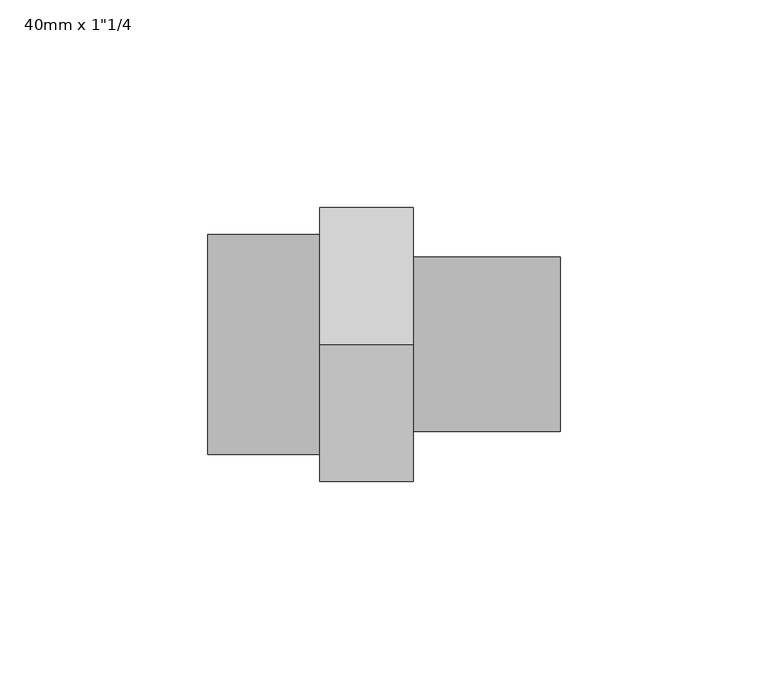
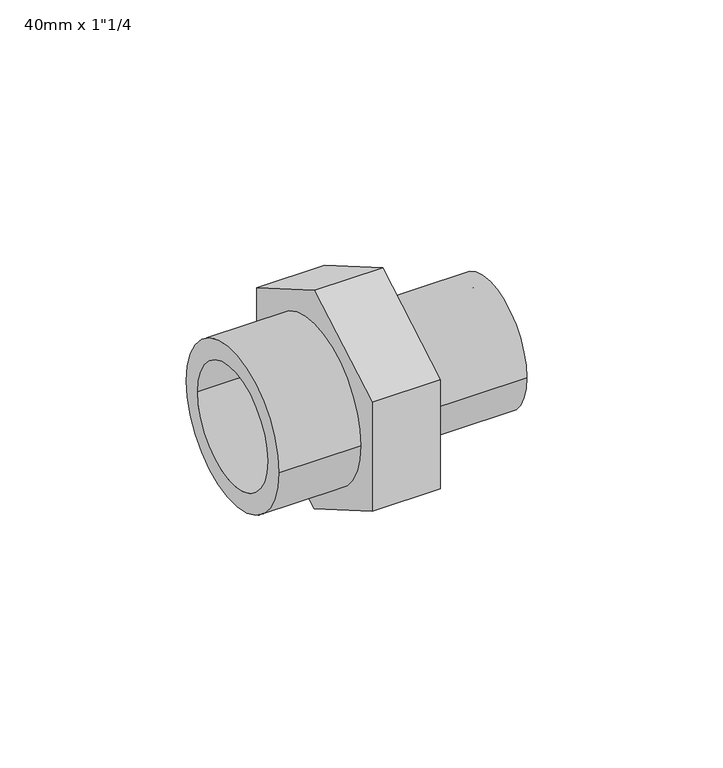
"""IFC4 building model written with IfcOpenShell, lengths in millimetres: pipe fitting geometry."""

import ifcopenshell
import ifcopenshell.guid

model = None  # the IFC model being written
_history = None  # IfcOwnerHistory: only IFC2X3 demands one
_inside = {}  # id of a spatial element -> (the spatial element, [elements in it])
_under = {}  # id of a project, library or spatial element -> (it, [spatial elements below it])
_declared = {}  # id of a project -> (the project, [libraries it declares])
_typed = {}  # id of a type object -> (the type object, [elements of that type])
_made_of = {}  # id of a material, layer set ... -> (it, [elements and type objects made of it])


def new_model(schema):
    """Start an empty IFC model of exactly this schema.

    Asked for "IFC4X3", IfcOpenShell would pick the latest addendum, in which some entities
    have other attributes; the version numbers below select the first issue.
    IFC2X3 requires an IfcOwnerHistory on every rooted entity: one is made here for all.
    """
    global model, _history
    if schema == "IFC4X3":
        model = ifcopenshell.file(schema_version=(4, 3, 0, 0))
    else:
        model = ifcopenshell.file(schema=schema)
    _inside.clear()
    _under.clear()
    _declared.clear()
    _typed.clear()
    _made_of.clear()
    _history = None
    if model.schema == "IFC2X3":
        org = make("IfcOrganization", Name="unknown")
        user = make(
            "IfcPersonAndOrganization",
            ThePerson=make("IfcPerson", FamilyName="unknown"),
            TheOrganization=org,
        )
        app = make(
            "IfcApplication",
            ApplicationDeveloper=org,
            Version="unknown",
            ApplicationFullName="unknown",
            ApplicationIdentifier="unknown",
        )
        _history = make(
            "IfcOwnerHistory",
            OwningUser=user,
            OwningApplication=app,
            ChangeAction="ADDED",
            CreationDate=0,
        )
    return model


def make(cls, **values):
    """One entity of the class cls with the attributes given. An attribute that is None is left unset."""
    return model.create_entity(
        cls, **{name: value for name, value in values.items() if value is not None}
    )


def rooted(cls, **values):
    """An entity with a GlobalId (a new one), such as an element, a storey or a relation."""
    return make(cls, GlobalId=ifcopenshell.guid.new(), OwnerHistory=_history, **values)


def si_unit(unit_type, name, prefix=None):
    """IfcSIUnit, for example si_unit("LENGTHUNIT", "METRE", prefix="MILLI")."""
    return make("IfcSIUnit", UnitType=unit_type, Prefix=prefix, Name=name)


def assignment(units):
    """IfcUnitAssignment: the units of a project."""
    return None if units is None else make("IfcUnitAssignment", Units=units)


def point(xyz):
    """IfcCartesianPoint."""
    return None if xyz is None else make("IfcCartesianPoint", Coordinates=xyz)


def direction(xyz):
    """IfcDirection."""
    return None if xyz is None else make("IfcDirection", DirectionRatios=xyz)


def frame(location, z_axis=None, x_axis=None):
    """IfcAxis2Placement3D, a coordinate frame: its origin and axes. An axis left out is left unset."""
    return make(
        "IfcAxis2Placement3D",
        Location=point(location),
        Axis=direction(z_axis),
        RefDirection=direction(x_axis),
    )


def frame_2d(location, x_axis=None):
    """IfcAxis2Placement2D, a coordinate frame in the plane: its origin and x axis."""
    return make(
        "IfcAxis2Placement2D", Location=point(location), RefDirection=direction(x_axis)
    )


def origin():
    """The frame at (0, 0, 0) with its axes left unset."""
    return frame((0.0, 0.0, 0.0))


def origin_2d():
    """The frame at (0, 0) in the plane with its x axis left unset."""
    return frame_2d((0.0, 0.0))


def place(relative_to, where):
    """IfcLocalPlacement: puts the frame where relative to a parent placement (None: the world)."""
    return make(
        "IfcLocalPlacement", PlacementRelTo=relative_to, RelativePlacement=where
    )


def context(
    kind, dimensions, precision=None, world=None, true_north=None, identifier=None
):
    """IfcGeometricRepresentationContext, for example the 3D "Model" context."""
    return make(
        "IfcGeometricRepresentationContext",
        ContextIdentifier=identifier,
        ContextType=kind,
        CoordinateSpaceDimension=dimensions,
        Precision=precision,
        WorldCoordinateSystem=world,
        TrueNorth=true_north,
    )


def project(units=None, contexts=None):
    """IfcProject with its units and contexts."""
    return rooted(
        "IfcProject",
        Name="project",
        RepresentationContexts=contexts,
        UnitsInContext=assignment(units),
    )


def spatial(cls, under=None, at=None, **own):
    """A site, building, storey or space (cls), placed at a placement, below another one or the project."""
    s = rooted(cls, ObjectPlacement=at, **own)
    if under is not None:
        _under.setdefault(under.id(), (under, []))[1].append(s)
    return s


def polyline(points):
    """IfcPolyline through the points."""
    return make("IfcPolyline", Points=[point(p) for p in points])


def circle_curve(where, radius):
    """IfcCircle in the frame where."""
    return make("IfcCircle", Position=where, Radius=radius)


def trimmed(basis, trim1, trim2, sense, master):
    """IfcTrimmedCurve: the piece of a basis curve between two trims."""
    return make(
        "IfcTrimmedCurve",
        BasisCurve=basis,
        Trim1=trim1,
        Trim2=trim2,
        SenseAgreement=sense,
        MasterRepresentation=master,
    )


def segment(curve, same_sense, transition):
    """IfcCompositeCurveSegment."""
    return make(
        "IfcCompositeCurveSegment",
        Transition=transition,
        SameSense=same_sense,
        ParentCurve=curve,
    )


def composite_curve(segments, self_intersect=None):
    """IfcCompositeCurve: segments joined end to end."""
    return make("IfcCompositeCurve", Segments=segments, SelfIntersect=self_intersect)


def outline(outer, holes=None, kind="AREA"):
    """IfcArbitraryClosedProfileDef: a profile drawn as a closed curve; with holes, ...WithVoids."""
    if holes is None:
        return make("IfcArbitraryClosedProfileDef", ProfileType=kind, OuterCurve=outer)
    return make(
        "IfcArbitraryProfileDefWithVoids",
        ProfileType=kind,
        OuterCurve=outer,
        InnerCurves=holes,
    )


def extrude(swept, where, along, depth):
    """IfcExtrudedAreaSolid: the profile swept, set in the frame where, extruded along a direction by depth."""
    return make(
        "IfcExtrudedAreaSolid",
        SweptArea=swept,
        Position=where,
        ExtrudedDirection=direction(along),
        Depth=depth,
    )


def shape(context_of_items, identifier, shape_type, items):
    """IfcShapeRepresentation: the items that make up one representation, for example the "Body"."""
    return make(
        "IfcShapeRepresentation",
        ContextOfItems=context_of_items,
        RepresentationIdentifier=identifier,
        RepresentationType=shape_type,
        Items=items,
    )


def source(mapping_origin, context_of_items, identifier, shape_type, items):
    """IfcRepresentationMap: a shape defined once, which mapped items show again and again."""
    return make(
        "IfcRepresentationMap",
        MappingOrigin=mapping_origin,
        MappedRepresentation=shape(context_of_items, identifier, shape_type, items),
    )


def transform(
    local_origin,
    x_axis=None,
    y_axis=None,
    z_axis=None,
    scale=None,
    scale2=None,
    scale3=None,
    uniform=True,
):
    """IfcCartesianTransformationOperator3D, or its non-uniform kind. x_axis, y_axis, z_axis: its Axis1, 2, 3."""
    if uniform:
        return make(
            "IfcCartesianTransformationOperator3D",
            Axis1=direction(x_axis),
            Axis2=direction(y_axis),
            LocalOrigin=point(local_origin),
            Scale=scale,
            Axis3=direction(z_axis),
        )
    return make(
        "IfcCartesianTransformationOperator3DnonUniform",
        Axis1=direction(x_axis),
        Axis2=direction(y_axis),
        LocalOrigin=point(local_origin),
        Scale=scale,
        Axis3=direction(z_axis),
        Scale2=scale2,
        Scale3=scale3,
    )


def mapped(mapping_source, mapping_target):
    """IfcMappedItem: shows the shape of a source again, moved by a transform."""
    return make(
        "IfcMappedItem", MappingSource=mapping_source, MappingTarget=mapping_target
    )


def made_of(thing, what):
    """Note that an element or type object is made of a material, layer set ...; save() writes the relation."""
    if what is not None:
        _made_of.setdefault(what.id(), (what, []))[1].append(thing)
    return thing


def element(
    cls,
    number,
    at=None,
    inside=None,
    cuts=None,
    type_object=None,
    material=None,
    context=None,
    identifier="Body",
    shape_type=None,
    held_by="IfcProductDefinitionShape",
    body=None,
    shapes=None,
    **own,
):
    """One element of the class cls, such as IfcWall. Its Tag is "e" and its number.

    at: its placement. inside: the storey or other place that contains it. cuts: it is an
    opening in that element (IfcRelVoidsElement). A single representation is given by context,
    identifier, shape_type and body (its items); several are given by shapes. held_by: the class
    of the entity that holds the representations. save() writes the other relations.
    """
    e = rooted(cls, Tag="e%d" % number, ObjectPlacement=at, **own)
    if body is not None:
        shapes = [shape(context, identifier, shape_type, body)]
    if shapes is not None:
        e.Representation = make(held_by, Representations=shapes)
    if inside is not None:
        _inside.setdefault(inside.id(), (inside, []))[1].append(e)
    if cuts is not None:
        rooted(
            "IfcRelVoidsElement", RelatingBuildingElement=cuts, RelatedOpeningElement=e
        )
    if type_object is not None:
        _typed.setdefault(type_object.id(), (type_object, []))[1].append(e)
    return made_of(e, material)


def aggregate(whole, parts):
    """IfcRelAggregates: a whole, such as a stair, and the parts it consists of."""
    return rooted("IfcRelAggregates", RelatingObject=whole, RelatedObjects=parts)


def save(model, path):
    """Write the relations noted so far, then the file.

    IfcRelAggregates (storeys below a building ...), IfcRelContainedInSpatialStructure (elements
    in a storey), IfcRelDefinesByType, IfcRelAssociatesMaterial and IfcRelDeclares: one each for
    every whole, place, type object, material and project.
    """
    for whole, parts in _under.values():
        aggregate(whole, parts)
    for where, things in _inside.values():
        rooted(
            "IfcRelContainedInSpatialStructure",
            RelatedElements=things,
            RelatingStructure=where,
        )
    for kind, things in _typed.values():
        rooted("IfcRelDefinesByType", RelatedObjects=things, RelatingType=kind)
    for what, things in _made_of.values():
        rooted("IfcRelAssociatesMaterial", RelatedObjects=things, RelatingMaterial=what)
    for by, libraries in _declared.values():
        rooted("IfcRelDeclares", RelatingContext=by, RelatedDefinitions=libraries)
    model.write(path)


def plane_surface(at):
    """IfcPlane: the flat surface through the origin of the frame at, square to its z axis."""
    return make("IfcPlane", Position=at)


def cylinder_surface(at, radius):
    """IfcCylindricalSurface: all points at the distance radius from the z axis of the frame at."""
    return make("IfcCylindricalSurface", Position=at, Radius=radius)


def revolved_surface(curve, axis_point, axis_direction):
    """IfcSurfaceOfRevolution: the curve turned about the line through axis_point along axis_direction."""
    return make(
        "IfcSurfaceOfRevolution",
        SweptCurve=make("IfcArbitraryOpenProfileDef", ProfileType="CURVE", Curve=curve),
        AxisPosition=make("IfcAxis1Placement", Location=point(axis_point), Axis=direction(axis_direction)),
    )


def advanced_brep(points, edges, surfaces, faces):
    """IfcAdvancedBrep: a solid bounded by faces that lie on surfaces and meet in shared edges.

    An edge is (start, end): straight between two places in points (the first is 0);
    or (start, end, curve); or (start, end, curve, False) where it runs against its curve.
    A face is (place in surfaces, loops), or (place, loops, False) where it looks against
    its surface's normal. A loop lists edges by number (the first is 1), with a minus sign
    where the edge is run from its end to its start. The first loop is the outer one.
    """
    corners = [point(p) for p in points]
    vertices = [make("IfcVertexPoint", VertexGeometry=c) for c in corners]
    made = []
    for start, end, *more in edges:
        made.append(
            make(
                "IfcEdgeCurve",
                EdgeStart=vertices[start],
                EdgeEnd=vertices[end],
                EdgeGeometry=more[0] if more else make("IfcPolyline", Points=[corners[start], corners[end]]),
                SameSense=more[1] if len(more) > 1 else True,
            )
        )
    hull = []
    for where, loops, *sense in faces:
        bounds = []
        for j, loop in enumerate(loops):
            ring = [make("IfcOrientedEdge", EdgeElement=made[abs(k) - 1], Orientation=k > 0) for k in loop]
            bounds.append(
                make(
                    "IfcFaceOuterBound" if j == 0 else "IfcFaceBound",
                    Bound=make("IfcEdgeLoop", EdgeList=ring),
                    Orientation=True,
                )
            )
        hull.append(make("IfcAdvancedFace", Bounds=bounds, FaceSurface=surfaces[where], SameSense=sense[0] if sense else True))
    return make("IfcAdvancedBrep", Outer=make("IfcClosedShell", CfsFaces=hull))


def pipe_fitting_db3966e1(model_context):
    return source(origin(), model_context, "Body", "SolidModel", [
        extrude(outline(composite_curve([segment(trimmed(circle_curve(origin_2d(), 26.5), [point((-26.5, 0.0))], [point((26.5, 0.0))], False, "CARTESIAN"), True, "CONTINUOUS"), segment(trimmed(circle_curve(origin_2d(), 26.5), [point((26.5, 0.0))], [point((-26.5, 0.0))], False, "CARTESIAN"), True, "CONTINUOUS")], self_intersect=False), holes=[composite_curve([segment(trimmed(circle_curve(origin_2d(), 20.0), [point((-20.0, 0.0))], [point((20.0, 0.0))], True, "CARTESIAN"), True, "CONTINUOUS"), segment(trimmed(circle_curve(origin_2d(), 20.0), [point((20.0, 0.0))], [point((-20.0, 0.0))], True, "CARTESIAN"), True, "CONTINUOUS")], self_intersect=False)]), frame((-13.5, 0.0, 0.0), z_axis=(1.0, 0.0, 0.0), x_axis=(0.0, 1.0, 0.0)), (0.0, 0.0, 1.0), 27.0),
        advanced_brep(
        [(71.5, -21.0, 0.0), (71.5, 21.0, 0.0), (71.5, 16.0, 0.0), (71.5, -16.0, 0.0), (36.0, 21.0, 0.0), (36.0, -21.0, 0.0), (13.5, 0.0, 38.1051178), (13.5, 33.0, 19.0525589), (13.5, 33.0, -19.0525589), (13.5, 0.0, -38.1051178), (13.5, -33.0, -19.0525589), (13.5, -33.0, 19.0525589), (13.5, -16.0, 0.0), (13.5, 16.0, 0.0), (36.0, 0.0, 38.1051178), (36.0, -33.0, 19.0525589), (36.0, -33.0, -19.0525589), (36.0, 0.0, -38.1051178), (36.0, 33.0, -19.0525589), (36.0, 33.0, 19.0525589)],
        [
            (0, 1, circle_curve(frame((71.5, 0.0, 0.0), z_axis=(1.0, 0.0, 0.0), x_axis=(0.0, 1.0, 0.0)), 21.0)),
            (1, 0, circle_curve(frame((71.5, 0.0, 0.0), z_axis=(1.0, 0.0, 0.0), x_axis=(0.0, 1.0, 0.0)), 21.0)),
            (2, 3, circle_curve(frame((71.5, 0.0, 0.0), z_axis=(-1.0, 0.0, 0.0), x_axis=(0.0, -1.0, 0.0)), 16.0)),
            (3, 2, circle_curve(frame((71.5, 0.0, 0.0), z_axis=(-1.0, 0.0, 0.0), x_axis=(0.0, -1.0, 0.0)), 16.0)),
            (1, 4),
            (4, 5, circle_curve(frame((36.0, 0.0, 0.0), z_axis=(1.0, 0.0, 0.0), x_axis=(0.0, 1.0, 0.0)), 21.0)),
            (5, 0),
            (5, 4, circle_curve(frame((36.0, 0.0, 0.0), z_axis=(1.0, 0.0, 0.0), x_axis=(0.0, 1.0, 0.0)), 21.0)),
            (6, 7),
            (7, 8),
            (8, 9),
            (9, 10),
            (10, 11),
            (11, 6),
            (12, 13, circle_curve(frame((13.5, 0.0, 0.0), z_axis=(1.0, 0.0, 0.0), x_axis=(0.0, -1.0, 0.0)), 16.0)),
            (13, 12, circle_curve(frame((13.5, 0.0, 0.0), z_axis=(1.0, 0.0, 0.0), x_axis=(0.0, -1.0, 0.0)), 16.0)),
            (14, 15),
            (15, 16),
            (16, 17),
            (17, 18),
            (18, 19),
            (19, 14),
            (6, 14),
            (19, 7),
            (18, 8),
            (17, 9),
            (16, 10),
            (15, 11),
            (12, 3),
            (2, 13),
        ],
        [
            plane_surface(frame((71.5, 0.0, 0.0), z_axis=(1.0, 0.0, 0.0), x_axis=(0.0, 0.0, 1.0))),
            cylinder_surface(frame((36.0, 0.0, 0.0), z_axis=(-1.0, 0.0, 0.0), x_axis=(0.0, 1.0, 0.0)), 21.0),
            plane_surface(frame((13.5, 0.0, 0.0), z_axis=(-1.0, 0.0, 0.0), x_axis=(0.0, 0.0, 1.0))),
            plane_surface(frame((36.0, 0.0, 0.0), z_axis=(1.0, 0.0, 0.0), x_axis=(0.0, 0.0, 1.0))),
            plane_surface(frame((13.5, 0.0, 38.1051178), z_axis=(0.0, 0.4999999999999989, 0.8660254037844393), x_axis=(1.0, 0.0, 0.0))),
            plane_surface(frame((13.5, 33.0, 19.0525589), z_axis=(0.0, 1.0, 0.0), x_axis=(1.0, 0.0, 0.0))),
            plane_surface(frame((13.5, 33.0, -19.0525589), z_axis=(0.0, 0.4999999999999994, -0.866025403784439), x_axis=(1.0, 0.0, 0.0))),
            plane_surface(frame((13.5, 0.0, -38.1051178), z_axis=(0.0, -0.4999999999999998, -0.8660254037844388), x_axis=(1.0, 0.0, 0.0))),
            plane_surface(frame((13.5, -33.0, -19.0525589), z_axis=(0.0, -1.0, 0.0), x_axis=(1.0, 0.0, 0.0))),
            plane_surface(frame((13.5, -33.0, 19.0525589), z_axis=(0.0, -0.49999999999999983, 0.8660254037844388), x_axis=(1.0, 0.0, 0.0))),
            revolved_surface(polyline([(13.5, -16.0, 0.0), (71.5, -16.0, 0.0)]), (71.5, 0.0, 0.0), (-1.0, 0.0, 0.0)),
        ],
        [
            (0, [[1, 2], [3, 4]]),
            (1, [[-2, 5, 6, 7]]),
            (1, [[-1, -7, 8, -5]]),
            (2, [[9, 10, 11, 12, 13, 14], [15, 16]]),
            (3, [[17, 18, 19, 20, 21, 22], [-6, -8]]),
            (4, [[-9, 23, -22, 24]]),
            (5, [[-10, -24, -21, 25]]),
            (6, [[-11, -25, -20, 26]]),
            (7, [[-12, -26, -19, 27]]),
            (8, [[-13, -27, -18, 28]]),
            (9, [[-14, -28, -17, -23]]),
            (10, [[29, -3, 30, -15]]),
            (10, [[-29, -16, -30, -4]]),
        ],
    ),
    ])


if __name__ == "__main__":
    model = new_model("IFC4")
    model_context = context("Model", 3, world=origin())
    ifc_project = project(units=[si_unit("LENGTHUNIT", "METRE", prefix="MILLI")], contexts=[model_context])
    site = spatial("IfcSite", under=ifc_project)
    building = spatial("IfcBuilding", under=site)
    placement = place(None, origin())
    pipe_fitting_shape = pipe_fitting_db3966e1(model_context)
    element("IfcPipeFitting", 1, ObjectType="PipeFitting_HTA_CPVC_Male3PieceUnions_(CPVC-Brass) : 40mm x 1\"1/4", at=placement, inside=building, context=model_context, shape_type="MappedRepresentation", body=[
        mapped(pipe_fitting_shape, transform((0.0, 0.0, 0.0), x_axis=(1.0, 0.0, 0.0), y_axis=(0.0, 1.0, 0.0), z_axis=(0.0, 0.0, 1.0))),
    ])
    save(model, "model.ifc")
